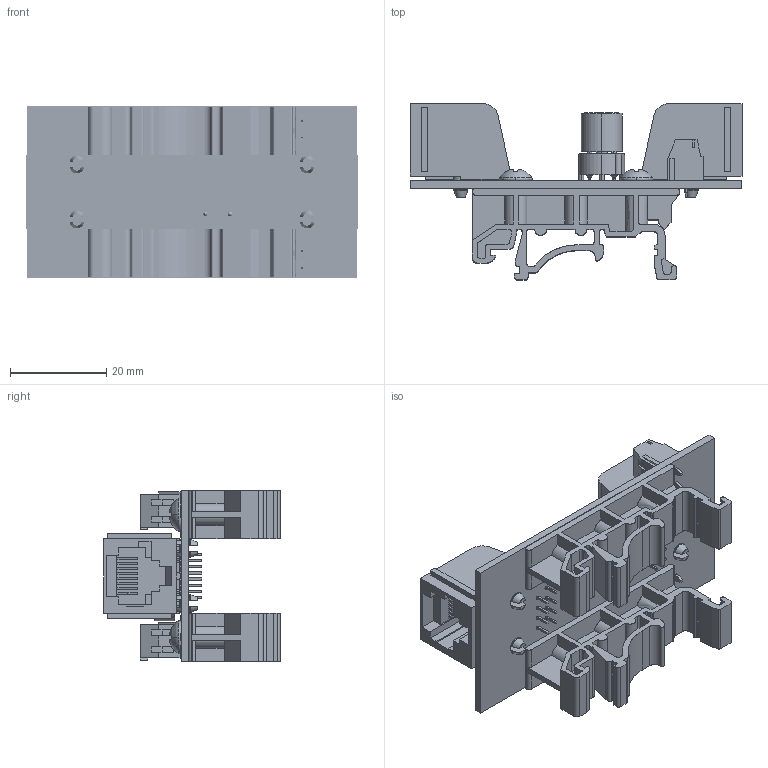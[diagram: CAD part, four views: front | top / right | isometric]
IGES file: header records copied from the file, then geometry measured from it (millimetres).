
Start section: SolidWorks IGES file using analytic representation for surfaces
Global section: file name: W:\end-user\products\pwrinj\pwrinj01\3dmodel\rev_b\render\pwrinj01-din_rev_b.igs; native system: SolidWorks 2018; preprocessor: SolidWorks 2018; author: leviroy; date: 210617.145902; units: inch
Bounding box: 68.84 x 36.56 x 35.56 mm (x, y, z)
Surface area: 21633.5 mm2 (no closed solid volume)
Topology: 0 solids, 0 shells, 2933 faces, 28119 edges, 28113 vertices
Faces by surface type: bspline 2350, revolution 583
